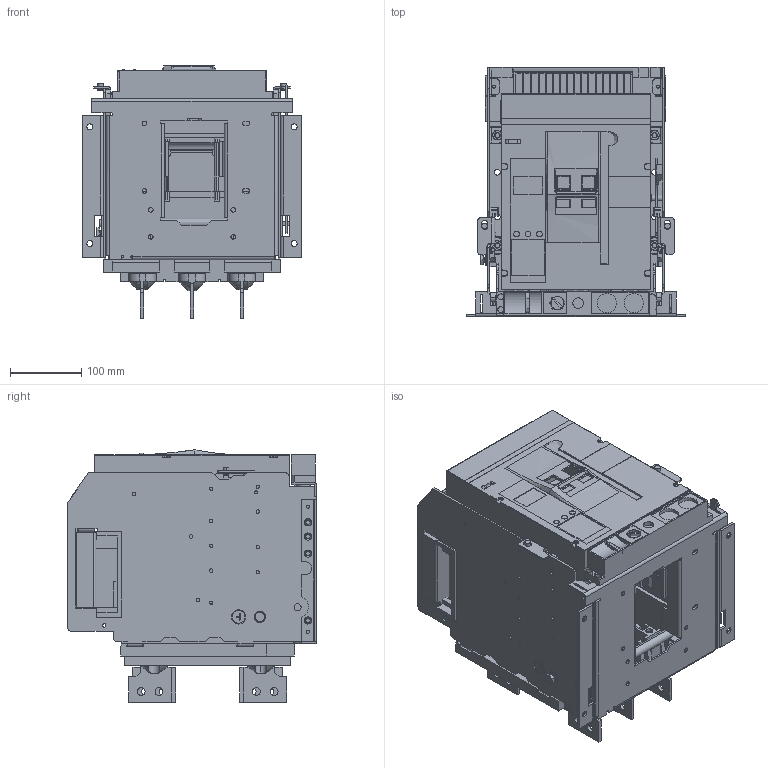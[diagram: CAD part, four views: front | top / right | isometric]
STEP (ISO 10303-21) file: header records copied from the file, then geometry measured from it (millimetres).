
FILE_DESCRIPTION(('CAx-IF Rec.Pracs.---Model Styling and Organization---1.2---2011-12-15','CAx-IF Rec.Pracs.---Geometric and Assembly Validation Properties---4.1---2014-06-16','CAx-IF Rec.Pracs.---PMI Polyline Presentation---2.0---2013-05-24'),'2;1');
FILE_NAME('YON AD-630-S1-D vertical connection.stp','2021-07-13T11:16:41+03:00',(''),(''),'STEP Interface 4.4 by CT CoreTechnologie','3D_Evolution4.4 by CT CoreTechnologie','');
FILE_SCHEMA(('AUTOMOTIVE_DESIGN { 1 0 10303 214 1 1 1 1 }'));
Length unit declared in the file: millimetre
Products named in the file (1): YON AD-630-S1-D vertical connection
Bounding box: 308 x 351 x 355 mm (x, y, z)
Surface area: 1817185.5 mm2 (no closed solid volume)
Topology: 0 solids, 67 shells, 2895 faces, 7980 edges, 5242 vertices
Faces by surface type: plane 1879, cylinder 831, bspline 185
Entity records: 183094 total; most frequent: CARTESIAN_POINT 20693, ORIENTED_EDGE 15820, DIRECTION 14859, PROPERTY_DEFINITION 11902, EDGE_CURVE 7918, REPRESENTATION 5963, GENERAL_PROPERTY 5963, PROPERTY_DEFINITION_REPRESENTATION 5963
